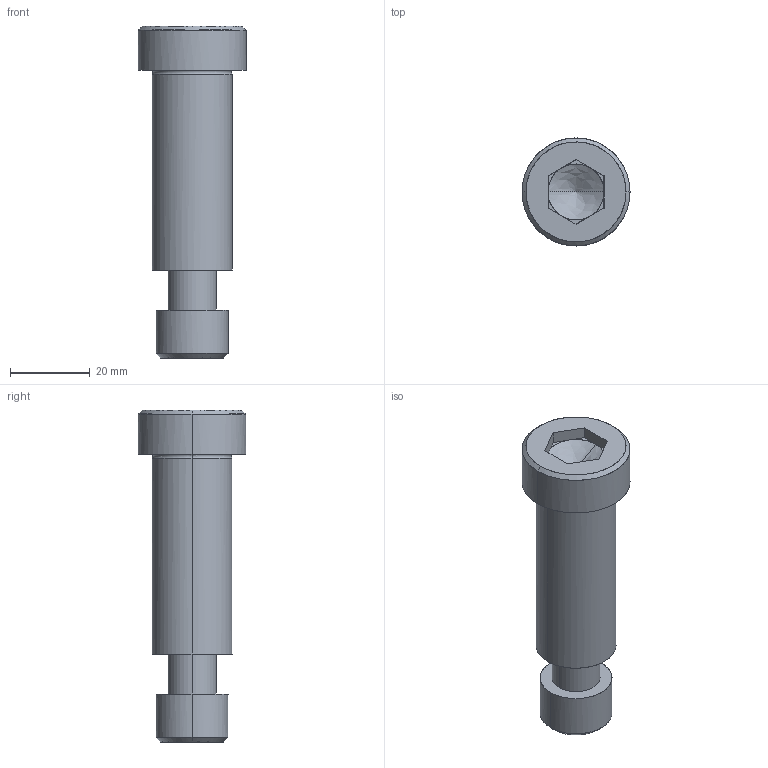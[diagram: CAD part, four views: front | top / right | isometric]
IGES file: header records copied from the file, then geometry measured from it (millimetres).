
Global section: file name: E:\UnigraphicsGraphicData\MISUMI_PRESS-PARTS\IGES\3d_sbtc20-50_05109_r00.igs; native system: NX V5.0; preprocessor: UGS NX IGES V5.0; author: MISUMI; date: 20110105.162449; units: millimetre
Bounding box: 27 x 27 x 83 mm (x, y, z)
Surface area: 8628.3 mm2 (no closed solid volume)
Topology: 0 solids, 0 shells, 52 faces, 294 edges, 290 vertices
Faces by surface type: bspline 52
